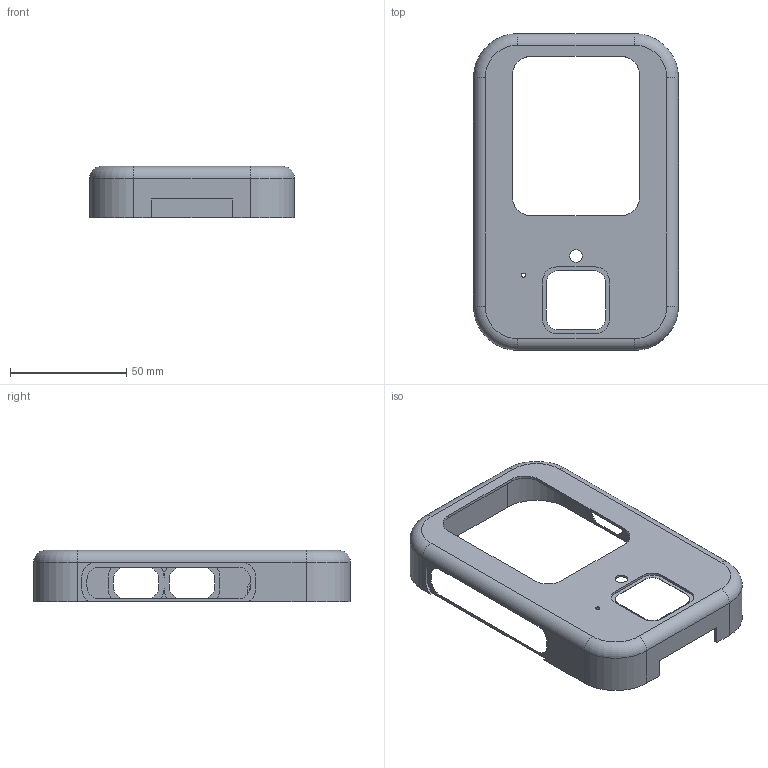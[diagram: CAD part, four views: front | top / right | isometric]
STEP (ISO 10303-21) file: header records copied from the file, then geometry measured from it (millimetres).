
FILE_DESCRIPTION(('Open CASCADE Model'),'2;1');
FILE_NAME('Open CASCADE Shape Model','2026-09-06T11:46:33',('Author'),( 'Open CASCADE'),'Open CASCADE STEP processor 7.7','Open CASCADE 7.7' ,'Unknown');
FILE_SCHEMA(('AUTOMOTIVE_DESIGN { 1 0 10303 214 1 1 1 1 }'));
Length unit declared in the file: millimetre
Products named in the file (1): Open CASCADE STEP translator 7.7 29
Bounding box: 88 x 136 x 22 mm (x, y, z)
Volume: 15081.1 mm3; surface area: 27673 mm2
Topology: 1 solids, 1 shells, 132 faces, 362 edges, 234 vertices
Faces by surface type: cylinder 63, plane 61, torus 8
Full cylindrical faces by diameter (mm): 1.8 x1, 5.4 x1, 6.6 x1
Entity records: 8997 total; most frequent: CARTESIAN_POINT 1683, DIRECTION 1411, LINE 798, VECTOR 798, ORIENTED_EDGE 724, PCURVE 724, DEFINITIONAL_REPRESENTATION 724, EDGE_CURVE 362
